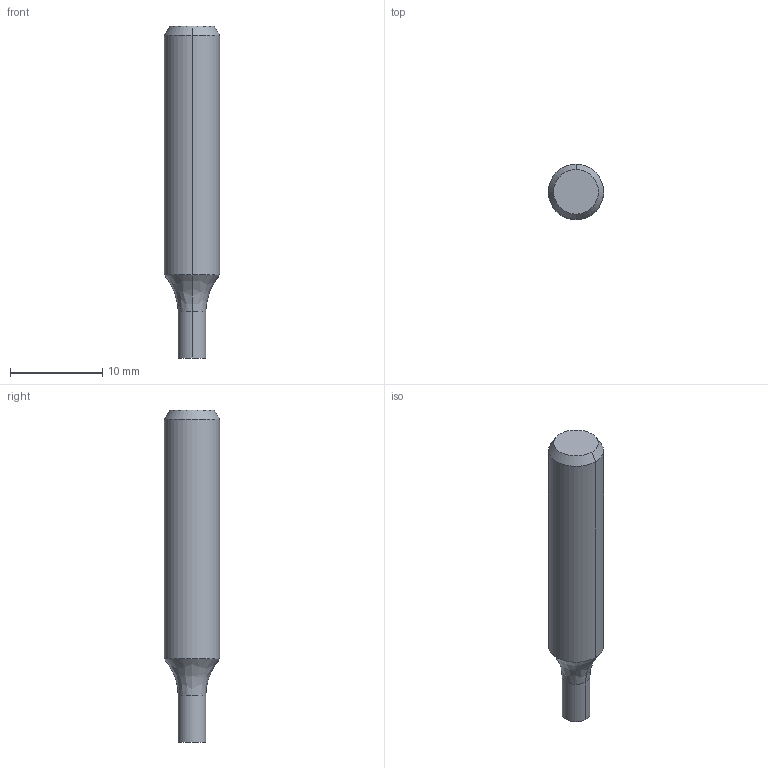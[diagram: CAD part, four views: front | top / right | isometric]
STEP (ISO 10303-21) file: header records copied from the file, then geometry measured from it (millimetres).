
FILE_DESCRIPTION((''),'2;1');
FILE_NAME('DIN4003_82_HEURO','2018-10-10T',('moesset'),(''),'PRO/ENGINEER BY PARAMETRIC TECHNOLOGY CORPORATION, 2015280','PRO/ENGINEER BY PARAMETRIC TECHNOLOGY CORPORATION, 2015280','');
FILE_SCHEMA(('AUTOMOTIVE_DESIGN { 1 0 10303 214 1 1 1 1 }'));
Length unit declared in the file: millimetre
Products named in the file (1): DIN4003_82_HEURO
Bounding box: 6 x 6 x 36 mm (x, y, z)
Volume: 844.9 mm3; surface area: 637.5 mm2
Topology: 1 solids, 1 shells, 10 faces, 20 edges, 13 vertices
Faces by surface type: bspline 10
Entity records: 829 total; most frequent: CARTESIAN_POINT 403, DIRECTION 61, ORIENTED_EDGE 36, AXIS2_PLACEMENT_3D 24, PRESENTATION_STYLE_ASSIGNMENT 20, STYLED_ITEM 20, COLOUR_RGB 18, EDGE_CURVE 18
